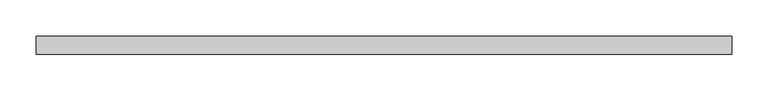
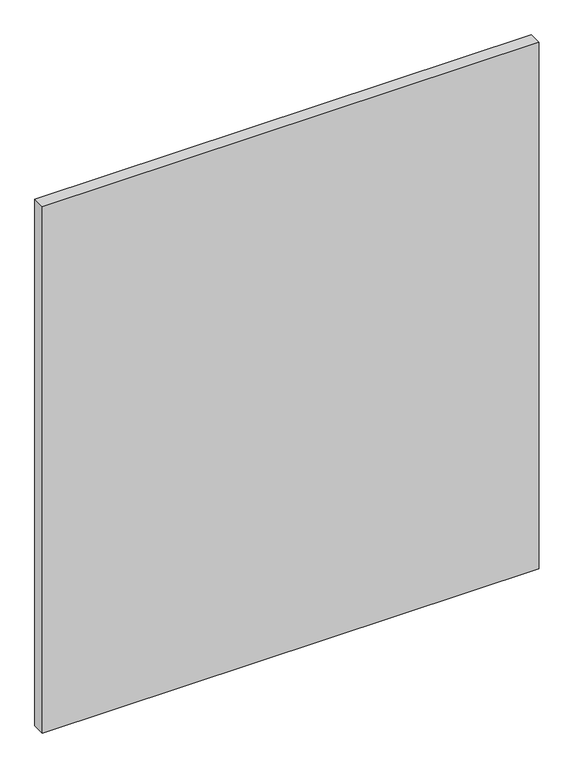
"""IFC4 building model written with IfcOpenShell, lengths in millimetres: plate geometry, 系統嵌板 : 有玻璃的."""

from ifc_helpers import new_model, si_unit, origin, origin_with_axes, place, context, project, spatial, polyline, outline, extrude, source, transform, mapped, element, save


def plate_5067366c(model_context):
    return source(origin(), model_context, "Body", "SweptSolid", [
        extrude(outline(polyline([(480.0, 24.5), (-480.0, 24.5), (-480.0, 49.5), (480.0, 49.5), (480.0, 24.5)])), origin_with_axes(), (0.0, 0.0, 1.0), 1074.8779336),
    ])


if __name__ == "__main__":
    model = new_model("IFC4")
    model_context = context("Model", 3, world=origin())
    ifc_project = project(units=[si_unit("LENGTHUNIT", "METRE", prefix="MILLI")], contexts=[model_context])
    site = spatial("IfcSite", under=ifc_project)
    building = spatial("IfcBuilding", under=site)
    placement = place(None, origin())
    plate_shape = plate_5067366c(model_context)
    element("IfcPlate", 1, ObjectType="系統嵌板 : 有玻璃的", at=placement, inside=building, context=model_context, shape_type="MappedRepresentation", body=[
        mapped(plate_shape, transform((0.0, 0.0, 0.0), x_axis=(1.0, 0.0, 0.0), y_axis=(0.0, 1.0, 0.0), z_axis=(0.0, 0.0, 1.0))),
    ])
    save(model, "model.ifc")
